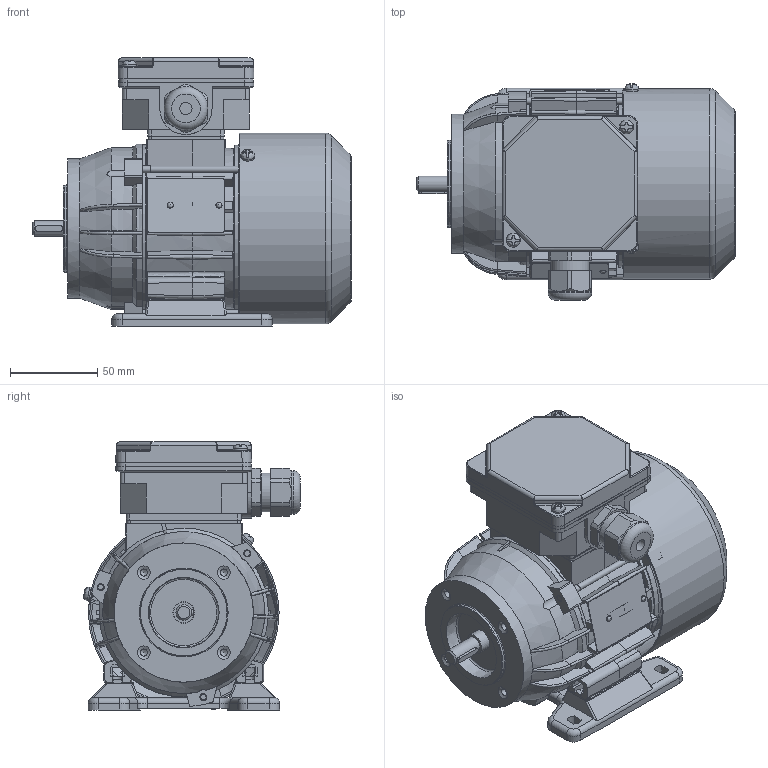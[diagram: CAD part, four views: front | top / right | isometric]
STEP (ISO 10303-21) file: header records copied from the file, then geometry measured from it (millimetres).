
FILE_DESCRIPTION( ( 'Unknown' ), '1' );
FILE_NAME( 'G:/Poczta Tk-1/STP/w.m.56/Sh56/SLh56-A2.stp', 'Unknown', ( 'K. Szlosek' ), ( 'BESEL S.A.' ), 'PSStep 17.0.49', 'Unknown', ' ' );
FILE_SCHEMA( ( 'AUTOMOTIVE_DESIGN { 1 0 10303 214 1 1 1 1 }' ) );
Length unit declared in the file: millimetre
Products named in the file (29): Assem1; K4-2320 Uszczelka nr 1 Sh71,80; K3-9987 kadłub ze stojanem Sh56-B; K3-2193 Tarcza łożyskowa P Sg56-2..; K3-9990 wał Sh56-B; K2-0860 Pokrywka skrzynki zaciskowej; Wpust A3x3x16; K4-2820 Uszczelka nr 2 Sh71,80; Wkręt samogwintujący M4x8; Wkręt samogwintujący M4x16; K2-0879 Przewietrznik Sg56; Nitokołek A 2x6; K1-0533 Tarcza kołnierzowa B14_2 SKg56-..2; K3-11363 Osłona przewietrznika Sh 56_A; K1-0484 Łapa Sg56-.. w. robocza; K2-0859 Podstawa skrzynki 6-cio zaciskowej; Łożysko 6201; Śruba ściągająca E_M4x75; Tabliczka znamionowa 32x44; Dławnica M20x1,5
Assembly tree (44 placements, depth 2):
  Assem1
    K4-2320 Uszczelka nr 1 Sh71,80
    K3-9987 kadłub ze stojanem Sh56-B
    K3-2193 Tarcza łożyskowa P Sg56-2..
    K3-9990 wał Sh56-B
    K2-0860 Pokrywka skrzynki zaciskowej
    Wpust A3x3x16
    K4-2820 Uszczelka nr 2 Sh71,80
    Wkręt samogwintujący M4x8  x3
    Wkręt samogwintujący M4x16  x2
    K2-0879 Przewietrznik Sg56
    Nitokołek A 2x6  x2
    K1-0533 Tarcza kołnierzowa B14_2 SKg56-..2
    K3-11363 Osłona przewietrznika Sh 56_A
    K1-0484 Łapa Sg56-.. w. robocza
    K2-0859 Podstawa skrzynki 6-cio zaciskowej
    Łożysko 6201  x2
    Łożysko 6201  x2
    Łożysko 6201  x2
    Łożysko 6201  x2
    Łożysko 6201  x2
    Łożysko 6201  x2
    Łożysko 6201  x2
    Łożysko 6201  x2
    Łożysko 6201  x2
    Łożysko 6201  x2
    Śruba ściągająca E_M4x75  x3
    Tabliczka znamionowa 32x44
    Dławnica M20x1,5
Bounding box: 183 x 124.54 x 154 mm (x, y, z)
Volume: 446061.7 mm3; surface area: 307872.5 mm2
Topology: 44 solids, 60 shells, 1915 faces, 5187 edges, 3349 vertices
Faces by surface type: plane 993, cylinder 556, cone 132, torus 108, bspline 92, sphere 34
Full cylindrical faces by diameter (mm): 2 x2, 2.4 x2, 3.242 x3, 3.7 x10, 4 x8, 4.134 x4, 4.5 x4, 4.6 x1, 4.8 x4, 5 x4, 5.8 x4, 7 x4, 8 x6, 9 x1, 10.9 x1, 11 x1, 11.5 x1, 11.8 x2, 12 x4, 12.4 x2, 15.5 x1, 16 x1, 16.1 x1, 17 x2, 18 x1, 18.376 x1, 18.38 x1, 18.52 x4, 20 x1, 22.3 x1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
Entity records: 78857 total; most frequent: CARTESIAN_POINT 20945, ORIENTED_EDGE 8996, DIRECTION 8944, EDGE_CURVE 4498, AXIS2_PLACEMENT_3D 3323, VERTEX_POINT 3040, LINE 2298, VECTOR 2298
